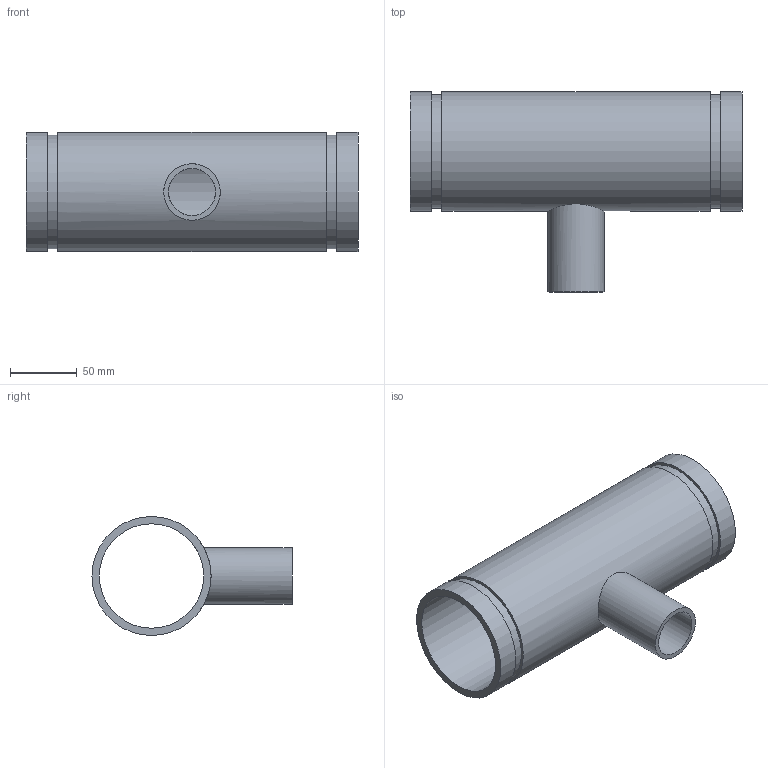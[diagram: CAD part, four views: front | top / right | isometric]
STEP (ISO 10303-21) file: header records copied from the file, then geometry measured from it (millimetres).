
FILE_DESCRIPTION(/* description */ ('VIC REDUCING TEE No 29T FFT (OGSxMPT)','CAx-IF Rec.Pracs.---Representation and Presentation of Product Manufacturing Information (PMI)---4.0---2014-10-13'),/* implementation_level */ '2;1');
FILE_NAME(/* name */ 'C:\Users\kkamble\AppData\Roaming\Autodesk\ApplicationPlugins\Back Up\Victaulic_IPS_Tee Reducing_No 29T FFT (OGSxMPT)\Victaulic_IPS_Tee Reducing_No 29T FFT (OGSxMPT)_03.0x01.25 (80x32).stp',/* time_stamp */ '2020-09-16T22:37:37+05:00',/* author */ ('CORINNE GRAY'),/* organization */ ('Victaulic'),/* preprocessor_version */ 'ST-DEVELOPER v17.2',/* originating_system */ 'Autodesk Inventor 2019',/* authorisation */ '');
FILE_SCHEMA (('AP242_MANAGED_MODEL_BASED_3D_ENGINEERING_MIM_LF { 1 0 10303 442 1 1 4 }'));
Length unit declared in the file: inch
Products named in the file (1): 29 FFT-03.0x01.25
Bounding box: 247.9 x 149.35 x 88.9 mm (x, y, z)
Volume: 369417 mm3; surface area: 148610.7 mm2
Topology: 1 solids, 1 shells, 15 faces, 32 edges, 24 vertices
Faces by surface type: cylinder 8, plane 7
Full cylindrical faces by diameter (mm): 35.052 x1, 42.164 x1, 77.927 x1, 84.938 x2, 88.9 x3
Entity records: 709 total; most frequent: CARTESIAN_POINT 221, DIRECTION 106, ORIENTED_EDGE 64, AXIS2_PLACEMENT_3D 49, EDGE_CURVE 32, EDGE_LOOP 24, VERTEX_POINT 24, CIRCLE 20
